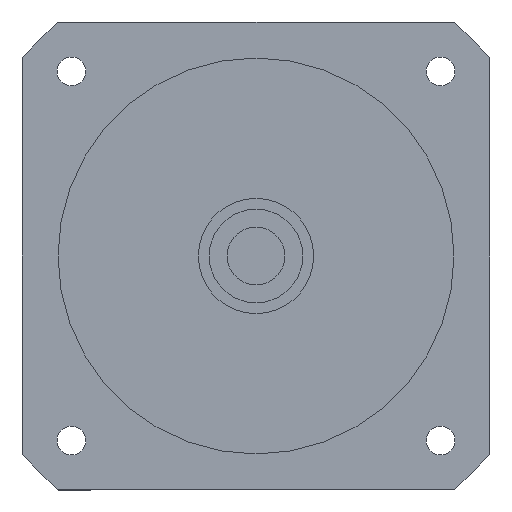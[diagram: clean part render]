
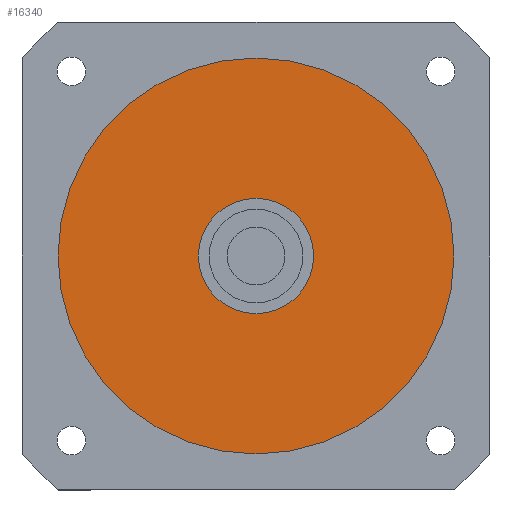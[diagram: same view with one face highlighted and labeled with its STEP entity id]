
A CAD part, left-side view. The second image highlights one B-rep face of the part: STEP entity #16340.
In plain terms, the highlighted planar face has unit normal (-1, 0, 0) as drawn and (0, 0, -1) by its records, which use the part's own axes.
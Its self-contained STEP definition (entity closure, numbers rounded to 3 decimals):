
#15730=CARTESIAN_POINT('',(0.,0.,
-129.));
#15740=DIRECTION('',(0.,0.,1.));
#15750=DIRECTION('',(0.,-1.,0.));
#15760=AXIS2_PLACEMENT_3D('',#15730,#15740,#15750);
#15770=CIRCLE('',#15760,16.);
#15780=CARTESIAN_POINT('',(0.,-16.,-129.));
#15790=VERTEX_POINT('',#15780);
#15800=CARTESIAN_POINT('',(16.,0.,-129.));
#15810=VERTEX_POINT('',#15800);
#15820=EDGE_CURVE('',#15790,#15810,#15770,.T.);
#15950=CARTESIAN_POINT('',(-16.,0.,-129.));
#15960=VERTEX_POINT('',#15950);
#15990=EDGE_CURVE('',#15960,#15790,#15770,.T.);
#16040=CARTESIAN_POINT('',(0.,0.,
-129.));
#16050=DIRECTION('',(0.,0.,1.));
#16060=DIRECTION('',(-1.,0.,0.));
#16070=AXIS2_PLACEMENT_3D('',#16040,#16050,#16060);
#16080=PLANE('',#16070);
#16090=CARTESIAN_POINT('',(0.,0.,
-129.));
#16100=DIRECTION('',(0.,0.,1.));
#16110=DIRECTION('',(0.,-1.,0.));
#16120=AXIS2_PLACEMENT_3D('',#16090,#16100,#16110);
#16130=CIRCLE('',#16120,55.);
#16140=CARTESIAN_POINT('',(0.,-55.,-129.));
#16150=VERTEX_POINT('',#16140);
#16160=CARTESIAN_POINT('',(55.,0.,-129.));
#16170=VERTEX_POINT('',#16160);
#16180=EDGE_CURVE('',#16150,#16170,#16130,.T.);
#16190=ORIENTED_EDGE('',*,*,#16180,.F.);
#16200=CARTESIAN_POINT('',(-55.,0.,-129.));
#16210=VERTEX_POINT('',#16200);
#16220=EDGE_CURVE('',#16170,#16210,#16130,.T.);
#16230=ORIENTED_EDGE('',*,*,#16220,.F.);
#16240=EDGE_CURVE('',#16210,#16150,#16130,.T.);
#16250=ORIENTED_EDGE('',*,*,#16240,.F.);
#16260=EDGE_LOOP('',(#16250,#16230,#16190));
#16270=FACE_OUTER_BOUND('',#16260,.T.);
#16280=EDGE_CURVE('',#15810,#15960,#15770,.T.);
#16290=ORIENTED_EDGE('',*,*,#16280,.T.);
#16300=ORIENTED_EDGE('',*,*,#15820,.T.);
#16310=ORIENTED_EDGE('',*,*,#15990,.T.);
#16320=EDGE_LOOP('',(#16310,#16300,#16290));
#16330=FACE_BOUND('',#16320,.T.);
#16340=ADVANCED_FACE('',(#16270,#16330),#16080,.F.);
